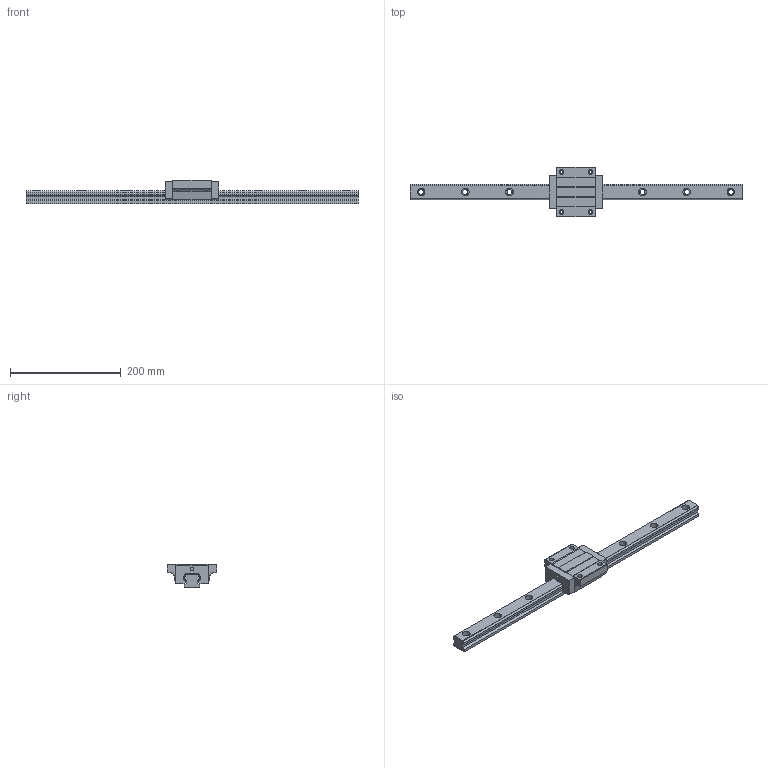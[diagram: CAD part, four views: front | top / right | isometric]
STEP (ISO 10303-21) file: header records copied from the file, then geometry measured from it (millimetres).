
FILE_DESCRIPTION(/* description */ (''),/* implementation_level */ '2;1');
FILE_NAME(/* name */ 'TRH30FN-XN.stp',/* time_stamp */ '2017-10-25T13:11:51+08:00',/* author */ (''),/* organization */ (''),/* preprocessor_version */ 'ST-DEVELOPER v11',/* originating_system */ 'SIEMENS UGS NX 6.0',/* authorisation */ '');
FILE_SCHEMA (('AUTOMOTIVE_DESIGN { 1 0 10303 214 1 1 1 1 }'));
Length unit declared in the file: millimetre
Products named in the file (1): TRH30FN-XN
Bounding box: 600 x 90 x 42 mm (x, y, z)
Volume: 506216.9 mm3; surface area: 101022.6 mm2
Topology: 2 solids, 2 shells, 144 faces, 373 edges, 234 vertices
Faces by surface type: plane 83, cylinder 57, sphere 4
Full cylindrical faces by diameter (mm): 5 x4, 6 x1, 8.5 x4, 9 x8, 14 x8
Entity records: 4353 total; most frequent: CARTESIAN_POINT 865, DIRECTION 730, ORIENTED_EDGE 664, EDGE_CURVE 332, AXIS2_PLACEMENT_3D 259, VERTEX_POINT 222, LINE 212, VECTOR 212
